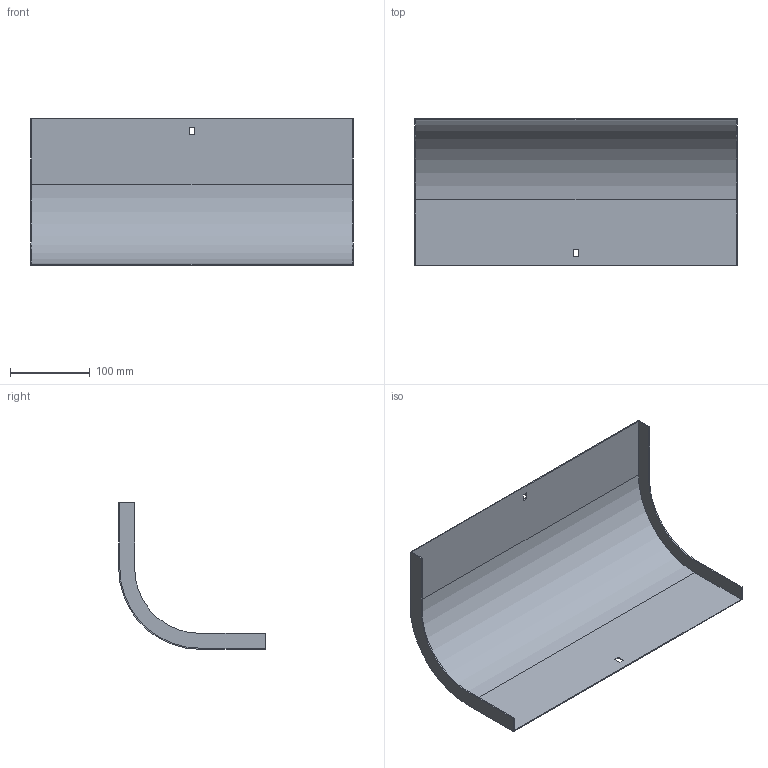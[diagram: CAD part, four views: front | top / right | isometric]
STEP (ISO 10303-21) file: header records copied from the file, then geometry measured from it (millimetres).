
FILE_DESCRIPTION (( 'STEP AP214' ), '1' );
FILE_NAME ('33G1B400.step', '2025-02-21T12:44:28', ( '' ), ( '' ), 'SwSTEP 2.0', 'SolidWorks 2023', '' );
FILE_SCHEMA (( 'AUTOMOTIVE_DESIGN' ));
Length unit declared in the file: millimetre
Products named in the file (1): 33G1B400
Bounding box: 404 x 183.5 x 183.5 mm (x, y, z)
Volume: 212126.2 mm3; surface area: 285130.5 mm2
Topology: 1 solids, 1 shells, 26 faces, 72 edges, 48 vertices
Faces by surface type: plane 22, cylinder 4
Entity records: 855 total; most frequent: CARTESIAN_POINT 147, ORIENTED_EDGE 144, DIRECTION 134, EDGE_CURVE 72, VECTOR 64, LINE 64, VERTEX_POINT 48, AXIS2_PLACEMENT_3D 35
